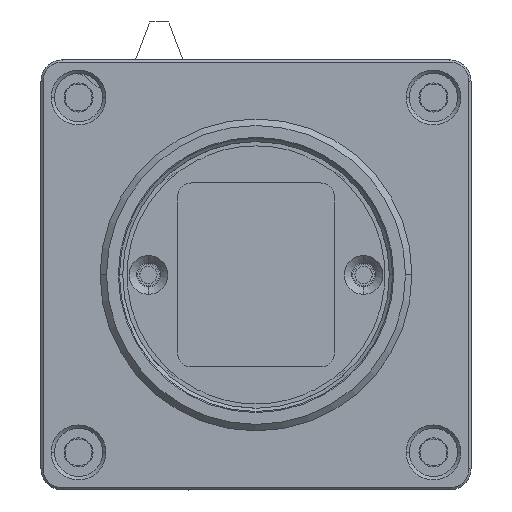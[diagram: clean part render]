
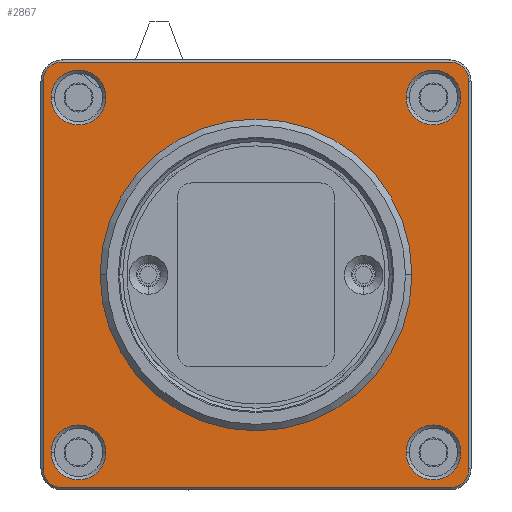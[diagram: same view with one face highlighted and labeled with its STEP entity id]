
A CAD part, front view. The second image highlights one B-rep face of the part: STEP entity #2867.
In plain terms, the highlighted planar face has unit normal (0, -1, 0).
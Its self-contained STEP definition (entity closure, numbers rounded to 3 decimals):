
#352=DIRECTION('',(0.,0.,1.));
#353=VECTOR('',#352,36.);
#354=CARTESIAN_POINT('',(-19.8,-1.,-18.));
#355=LINE('',#354,#353);
#356=CARTESIAN_POINT('',(-18.,-1.,18.));
#357=DIRECTION('',(0.,1.,0.));
#358=DIRECTION('',(-1.,0.,0.));
#359=AXIS2_PLACEMENT_3D('',#356,#357,#358);
#361=DIRECTION('',(1.,0.,0.));
#362=VECTOR('',#361,36.);
#363=CARTESIAN_POINT('',(-18.,-1.,19.8));
#364=LINE('',#363,#362);
#365=CARTESIAN_POINT('',(18.,-1.,18.));
#366=DIRECTION('',(0.,1.,0.));
#367=DIRECTION('',(0.,0.,1.));
#368=AXIS2_PLACEMENT_3D('',#365,#366,#367);
#370=DIRECTION('',(0.,0.,-1.));
#371=VECTOR('',#370,36.);
#372=CARTESIAN_POINT('',(19.8,-1.,18.));
#373=LINE('',#372,#371);
#374=CARTESIAN_POINT('',(18.,-1.,-18.));
#375=DIRECTION('',(0.,1.,0.));
#376=DIRECTION('',(1.,0.,0.));
#377=AXIS2_PLACEMENT_3D('',#374,#375,#376);
#379=DIRECTION('',(-1.,0.,0.));
#380=VECTOR('',#379,36.);
#381=CARTESIAN_POINT('',(18.,-1.,-19.8));
#382=LINE('',#381,#380);
#383=CARTESIAN_POINT('',(-18.,-1.,-18.));
#384=DIRECTION('',(0.,1.,0.));
#385=DIRECTION('',(0.,0.,-1.));
#386=AXIS2_PLACEMENT_3D('',#383,#384,#385);
#388=CARTESIAN_POINT('',(16.5,-1.,16.5));
#389=DIRECTION('',(0.,-1.,0.));
#390=DIRECTION('',(1.,0.,0.));
#391=AXIS2_PLACEMENT_3D('',#388,#389,#390);
#393=CARTESIAN_POINT('',(16.5,-1.,16.5));
#394=DIRECTION('',(0.,-1.,0.));
#395=DIRECTION('',(0.,0.,1.));
#396=AXIS2_PLACEMENT_3D('',#393,#394,#395);
#398=CARTESIAN_POINT('',(16.5,-1.,16.5));
#399=DIRECTION('',(0.,-1.,0.));
#400=DIRECTION('',(-1.,0.,0.));
#401=AXIS2_PLACEMENT_3D('',#398,#399,#400);
#403=CARTESIAN_POINT('',(16.5,-1.,16.5));
#404=DIRECTION('',(0.,-1.,0.));
#405=DIRECTION('',(0.,0.,-1.));
#406=AXIS2_PLACEMENT_3D('',#403,#404,#405);
#408=CARTESIAN_POINT('',(16.5,-1.,-16.5));
#409=DIRECTION('',(0.,-1.,0.));
#410=DIRECTION('',(-1.,0.,0.));
#411=AXIS2_PLACEMENT_3D('',#408,#409,#410);
#413=CARTESIAN_POINT('',(16.5,-1.,-16.5));
#414=DIRECTION('',(0.,-1.,0.));
#415=DIRECTION('',(0.,0.,-1.));
#416=AXIS2_PLACEMENT_3D('',#413,#414,#415);
#418=CARTESIAN_POINT('',(16.5,-1.,-16.5));
#419=DIRECTION('',(0.,-1.,0.));
#420=DIRECTION('',(1.,0.,0.));
#421=AXIS2_PLACEMENT_3D('',#418,#419,#420);
#423=CARTESIAN_POINT('',(16.5,-1.,-16.5));
#424=DIRECTION('',(0.,-1.,0.));
#425=DIRECTION('',(0.,0.,1.));
#426=AXIS2_PLACEMENT_3D('',#423,#424,#425);
#428=CARTESIAN_POINT('',(-16.5,-1.,-16.5));
#429=DIRECTION('',(0.,-1.,0.));
#430=DIRECTION('',(-1.,0.,0.));
#431=AXIS2_PLACEMENT_3D('',#428,#429,#430);
#433=CARTESIAN_POINT('',(-16.5,-1.,-16.5));
#434=DIRECTION('',(0.,-1.,0.));
#435=DIRECTION('',(0.,0.,-1.));
#436=AXIS2_PLACEMENT_3D('',#433,#434,#435);
#438=CARTESIAN_POINT('',(-16.5,-1.,-16.5));
#439=DIRECTION('',(0.,-1.,0.));
#440=DIRECTION('',(1.,0.,0.));
#441=AXIS2_PLACEMENT_3D('',#438,#439,#440);
#443=CARTESIAN_POINT('',(-16.5,-1.,-16.5));
#444=DIRECTION('',(0.,-1.,0.));
#445=DIRECTION('',(0.,0.,1.));
#446=AXIS2_PLACEMENT_3D('',#443,#444,#445);
#448=CARTESIAN_POINT('',(-16.5,-1.,16.5));
#449=DIRECTION('',(0.,-1.,0.));
#450=DIRECTION('',(1.,0.,0.));
#451=AXIS2_PLACEMENT_3D('',#448,#449,#450);
#453=CARTESIAN_POINT('',(-16.5,-1.,16.5));
#454=DIRECTION('',(0.,-1.,0.));
#455=DIRECTION('',(0.,0.,1.));
#456=AXIS2_PLACEMENT_3D('',#453,#454,#455);
#458=CARTESIAN_POINT('',(-16.5,-1.,16.5));
#459=DIRECTION('',(0.,-1.,0.));
#460=DIRECTION('',(-1.,0.,0.));
#461=AXIS2_PLACEMENT_3D('',#458,#459,#460);
#463=CARTESIAN_POINT('',(-16.5,-1.,16.5));
#464=DIRECTION('',(0.,-1.,0.));
#465=DIRECTION('',(0.,0.,-1.));
#466=AXIS2_PLACEMENT_3D('',#463,#464,#465);
#468=CARTESIAN_POINT('',(0.,-1.,0.));
#469=DIRECTION('',(0.,-1.,0.));
#470=DIRECTION('',(-1.,0.,0.));
#471=AXIS2_PLACEMENT_3D('',#468,#469,#470);
#473=CARTESIAN_POINT('',(0.,-1.,0.));
#474=DIRECTION('',(0.,-1.,0.));
#475=DIRECTION('',(1.,0.,0.));
#476=AXIS2_PLACEMENT_3D('',#473,#474,#475);
#1866=CARTESIAN_POINT('',(16.5,-1.,-19.05));
#1867=CARTESIAN_POINT('',(19.05,-1.,-16.5));
#1868=VERTEX_POINT('',#1866);
#1869=VERTEX_POINT('',#1867);
#1870=CARTESIAN_POINT('',(13.95,-1.,-16.5));
#1871=VERTEX_POINT('',#1870);
#1876=CARTESIAN_POINT('',(-19.8,-1.,-18.));
#1877=CARTESIAN_POINT('',(-19.8,-1.,18.));
#1878=VERTEX_POINT('',#1876);
#1879=VERTEX_POINT('',#1877);
#1880=CARTESIAN_POINT('',(-18.,-1.,19.8));
#1881=VERTEX_POINT('',#1880);
#1882=CARTESIAN_POINT('',(18.,-1.,19.8));
#1883=VERTEX_POINT('',#1882);
#1884=CARTESIAN_POINT('',(19.8,-1.,18.));
#1885=VERTEX_POINT('',#1884);
#1886=CARTESIAN_POINT('',(19.8,-1.,-18.));
#1887=VERTEX_POINT('',#1886);
#1888=CARTESIAN_POINT('',(18.,-1.,-19.8));
#1889=VERTEX_POINT('',#1888);
#1890=CARTESIAN_POINT('',(-18.,-1.,-19.8));
#1891=VERTEX_POINT('',#1890);
#1892=CARTESIAN_POINT('',(16.5,-1.,19.05));
#1893=CARTESIAN_POINT('',(13.95,-1.,16.5));
#1894=VERTEX_POINT('',#1892);
#1895=VERTEX_POINT('',#1893);
#1896=CARTESIAN_POINT('',(19.05,-1.,16.5));
#1897=VERTEX_POINT('',#1896);
#1898=CARTESIAN_POINT('',(16.5,-1.,13.95));
#1899=VERTEX_POINT('',#1898);
#1900=CARTESIAN_POINT('',(16.5,-1.,-13.95));
#1901=VERTEX_POINT('',#1900);
#1902=CARTESIAN_POINT('',(-16.5,-1.,-19.05));
#1903=CARTESIAN_POINT('',(-13.95,-1.,-16.5));
#1904=VERTEX_POINT('',#1902);
#1905=VERTEX_POINT('',#1903);
#1906=CARTESIAN_POINT('',(-19.05,-1.,-16.5));
#1907=VERTEX_POINT('',#1906);
#1908=CARTESIAN_POINT('',(-16.5,-1.,-13.95));
#1909=VERTEX_POINT('',#1908);
#1910=CARTESIAN_POINT('',(-16.5,-1.,19.05));
#1911=CARTESIAN_POINT('',(-19.05,-1.,16.5));
#1912=VERTEX_POINT('',#1910);
#1913=VERTEX_POINT('',#1911);
#1914=CARTESIAN_POINT('',(-13.95,-1.,16.5));
#1915=VERTEX_POINT('',#1914);
#1916=CARTESIAN_POINT('',(-16.5,-1.,13.95));
#1917=VERTEX_POINT('',#1916);
#1918=CARTESIAN_POINT('',(-14.5,-1.,0.));
#1919=CARTESIAN_POINT('',(14.5,-1.,0.));
#1920=VERTEX_POINT('',#1918);
#1921=VERTEX_POINT('',#1919);
#2799=CARTESIAN_POINT('',(0.,-1.,0.));
#2800=DIRECTION('',(0.,1.,0.));
#2801=DIRECTION('',(1.,0.,0.));
#2802=AXIS2_PLACEMENT_3D('',#2799,#2800,#2801);
#2803=PLANE('',#2802);
#2804=ORIENTED_EDGE('',*,*,#2789,.T.);
#2806=ORIENTED_EDGE('',*,*,#2805,.T.);
#2808=ORIENTED_EDGE('',*,*,#2807,.T.);
#2810=ORIENTED_EDGE('',*,*,#2809,.T.);
#2812=ORIENTED_EDGE('',*,*,#2811,.T.);
#2814=ORIENTED_EDGE('',*,*,#2813,.T.);
#2816=ORIENTED_EDGE('',*,*,#2815,.T.);
#2818=ORIENTED_EDGE('',*,*,#2817,.T.);
#2819=EDGE_LOOP('',(#2804,#2806,#2808,#2810,#2812,#2814,#2816,#2818));
#2820=FACE_OUTER_BOUND('',#2819,.F.);
#2822=ORIENTED_EDGE('',*,*,#2821,.T.);
#2824=ORIENTED_EDGE('',*,*,#2823,.T.);
#2826=ORIENTED_EDGE('',*,*,#2825,.T.);
#2828=ORIENTED_EDGE('',*,*,#2827,.T.);
#2829=EDGE_LOOP('',(#2822,#2824,#2826,#2828));
#2830=FACE_BOUND('',#2829,.F.);
#2832=ORIENTED_EDGE('',*,*,#2831,.T.);
#2834=ORIENTED_EDGE('',*,*,#2833,.T.);
#2836=ORIENTED_EDGE('',*,*,#2835,.T.);
#2838=ORIENTED_EDGE('',*,*,#2837,.T.);
#2839=EDGE_LOOP('',(#2832,#2834,#2836,#2838));
#2840=FACE_BOUND('',#2839,.F.);
#2842=ORIENTED_EDGE('',*,*,#2841,.T.);
#2844=ORIENTED_EDGE('',*,*,#2843,.T.);
#2846=ORIENTED_EDGE('',*,*,#2845,.T.);
#2848=ORIENTED_EDGE('',*,*,#2847,.T.);
#2849=EDGE_LOOP('',(#2842,#2844,#2846,#2848));
#2850=FACE_BOUND('',#2849,.F.);
#2852=ORIENTED_EDGE('',*,*,#2851,.T.);
#2854=ORIENTED_EDGE('',*,*,#2853,.T.);
#2856=ORIENTED_EDGE('',*,*,#2855,.T.);
#2858=ORIENTED_EDGE('',*,*,#2857,.T.);
#2859=EDGE_LOOP('',(#2852,#2854,#2856,#2858));
#2860=FACE_BOUND('',#2859,.F.);
#2862=ORIENTED_EDGE('',*,*,#2861,.T.);
#2864=ORIENTED_EDGE('',*,*,#2863,.T.);
#2865=EDGE_LOOP('',(#2862,#2864));
#2866=FACE_BOUND('',#2865,.F.);
#2867=ADVANCED_FACE('',(#2820,#2830,#2840,#2850,#2860,#2866),#2803,.F.);
#360=CIRCLE('',#359,1.8);
#369=CIRCLE('',#368,1.8);
#378=CIRCLE('',#377,1.8);
#387=CIRCLE('',#386,1.8);
#392=CIRCLE('',#391,2.55);
#397=CIRCLE('',#396,2.55);
#402=CIRCLE('',#401,2.55);
#407=CIRCLE('',#406,2.55);
#412=CIRCLE('',#411,2.55);
#417=CIRCLE('',#416,2.55);
#422=CIRCLE('',#421,2.55);
#427=CIRCLE('',#426,2.55);
#432=CIRCLE('',#431,2.55);
#437=CIRCLE('',#436,2.55);
#442=CIRCLE('',#441,2.55);
#447=CIRCLE('',#446,2.55);
#452=CIRCLE('',#451,2.55);
#457=CIRCLE('',#456,2.55);
#462=CIRCLE('',#461,2.55);
#467=CIRCLE('',#466,2.55);
#472=CIRCLE('',#471,14.5);
#477=CIRCLE('',#476,14.5);
#2789=EDGE_CURVE('',#1878,#1879,#355,.T.);
#2805=EDGE_CURVE('',#1879,#1881,#360,.T.);
#2807=EDGE_CURVE('',#1881,#1883,#364,.T.);
#2809=EDGE_CURVE('',#1883,#1885,#369,.T.);
#2811=EDGE_CURVE('',#1885,#1887,#373,.T.);
#2813=EDGE_CURVE('',#1887,#1889,#378,.T.);
#2815=EDGE_CURVE('',#1889,#1891,#382,.T.);
#2817=EDGE_CURVE('',#1891,#1878,#387,.T.);
#2821=EDGE_CURVE('',#1897,#1894,#392,.T.);
#2823=EDGE_CURVE('',#1894,#1895,#397,.T.);
#2825=EDGE_CURVE('',#1895,#1899,#402,.T.);
#2827=EDGE_CURVE('',#1899,#1897,#407,.T.);
#2831=EDGE_CURVE('',#1871,#1868,#412,.T.);
#2833=EDGE_CURVE('',#1868,#1869,#417,.T.);
#2835=EDGE_CURVE('',#1869,#1901,#422,.T.);
#2837=EDGE_CURVE('',#1901,#1871,#427,.T.);
#2841=EDGE_CURVE('',#1907,#1904,#432,.T.);
#2843=EDGE_CURVE('',#1904,#1905,#437,.T.);
#2845=EDGE_CURVE('',#1905,#1909,#442,.T.);
#2847=EDGE_CURVE('',#1909,#1907,#447,.T.);
#2851=EDGE_CURVE('',#1915,#1912,#452,.T.);
#2853=EDGE_CURVE('',#1912,#1913,#457,.T.);
#2855=EDGE_CURVE('',#1913,#1917,#462,.T.);
#2857=EDGE_CURVE('',#1917,#1915,#467,.T.);
#2861=EDGE_CURVE('',#1920,#1921,#472,.T.);
#2863=EDGE_CURVE('',#1921,#1920,#477,.T.);
